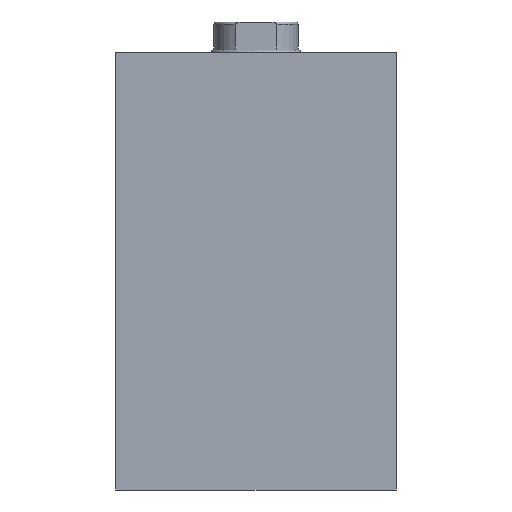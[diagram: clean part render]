
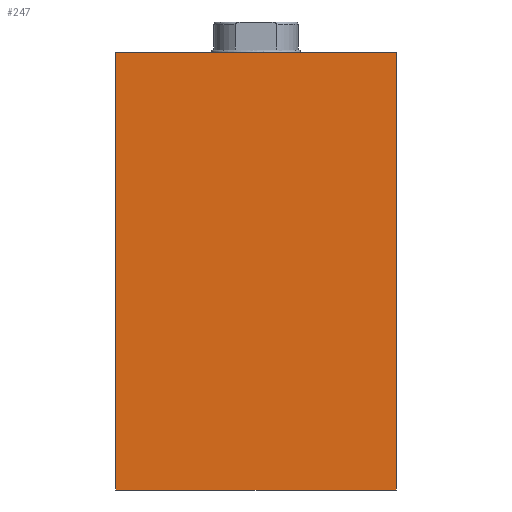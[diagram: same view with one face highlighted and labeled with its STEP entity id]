
A CAD part, left-side view. The second image highlights one B-rep face of the part: STEP entity #247.
In plain terms, the highlighted planar face has unit normal (-1, 0, 0) as drawn and (0, 0, -1) by its records, which use the part's own axes.
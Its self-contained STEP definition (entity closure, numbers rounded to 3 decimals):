
#247 = ADVANCED_FACE( '', ( #338 ), #339, .F. );
#338 = FACE_OUTER_BOUND( '', #554, .T. );
#339 = PLANE( '', #555 );
#554 = EDGE_LOOP( '', ( #789, #790, #791, #792 ) );
#555 = AXIS2_PLACEMENT_3D( '', #793, #794, #795 );
#789 = ORIENTED_EDGE( '', *, *, #1166, .T. );
#790 = ORIENTED_EDGE( '', *, *, #1183, .F. );
#791 = ORIENTED_EDGE( '', *, *, #1178, .F. );
#792 = ORIENTED_EDGE( '', *, *, #1182, .T. );
#793 = CARTESIAN_POINT( '', ( 156., -50., -37.5 ) );
#794 = DIRECTION( '', ( 0., 0., 1. ) );
#795 = DIRECTION( '', ( 1., 0., 0. ) );
#1166 = EDGE_CURVE( '', #1267, #1265, #1268, .T. );
#1178 = EDGE_CURVE( '', #1287, #1289, #1290, .T. );
#1182 = EDGE_CURVE( '', #1287, #1267, #1296, .T. );
#1183 = EDGE_CURVE( '', #1289, #1265, #1297, .T. );
#1265 = VERTEX_POINT( '', #1510 );
#1267 = VERTEX_POINT( '', #1513 );
#1268 = LINE( '', #1514, #1515 );
#1287 = VERTEX_POINT( '', #1706 );
#1289 = VERTEX_POINT( '', #1709 );
#1290 = LINE( '', #1710, #1711 );
#1296 = B_SPLINE_CURVE_WITH_KNOTS( '', 1, ( #1784, #1785 ), .UNSPECIFIED., .F., .F., ( 2, 2 ), ( 0., 1. ), .UNSPECIFIED. );
#1297 = B_SPLINE_CURVE_WITH_KNOTS( '', 1, ( #1786, #1787 ), .UNSPECIFIED., .F., .F., ( 2, 2 ), ( 0., 1. ), .UNSPECIFIED. );
#1510 = CARTESIAN_POINT( '', ( 0., 50., -37.5 ) );
#1513 = CARTESIAN_POINT( '', ( 0., -50., -37.5 ) );
#1514 = CARTESIAN_POINT( '', ( 0., -50., -37.5 ) );
#1515 = VECTOR( '', #4090, 1000. );
#1706 = CARTESIAN_POINT( '', ( 156., -50., -37.5 ) );
#1709 = CARTESIAN_POINT( '', ( 156., 50., -37.5 ) );
#1710 = CARTESIAN_POINT( '', ( 156., -50., -37.5 ) );
#1711 = VECTOR( '', #4097, 1000. );
#1784 = CARTESIAN_POINT( '', ( 156., -50., -37.5 ) );
#1785 = CARTESIAN_POINT( '', ( 0., -50., -37.5 ) );
#1786 = CARTESIAN_POINT( '', ( 156., 50., -37.5 ) );
#1787 = CARTESIAN_POINT( '', ( 0., 50., -37.5 ) );
#4090 = DIRECTION( '', ( 0., 1., 0. ) );
#4097 = DIRECTION( '', ( 0., 1., 0. ) );
